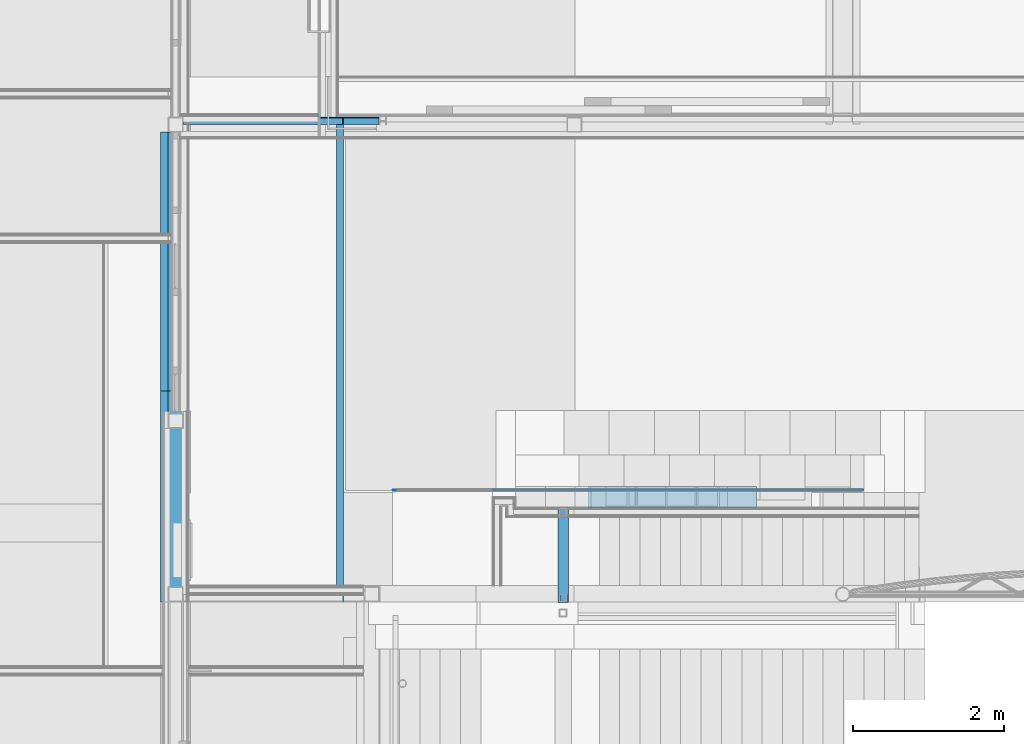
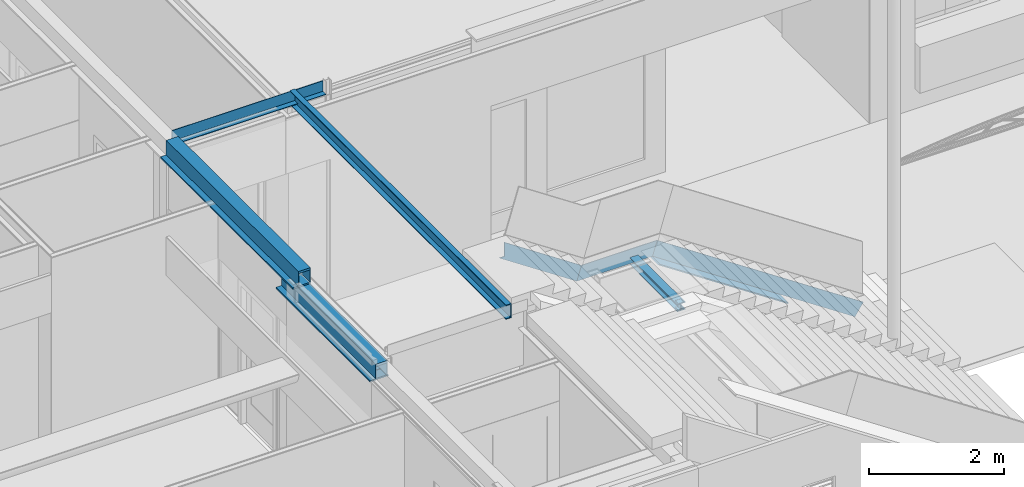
# One storey, part 9 of 165: 9 beams.
"""IFC2X3 building model written with IfcOpenShell, lengths in millimetres."""

from ifc_helpers import new_model, entity, si_unit, converted_unit, derived_unit, money_unit, direction, frame, origin_with_axes, place, context, subcontext, project, spatial, faceted_brep, material, type_object, element, save


model = new_model("IFC2X3")

# Units and contexts
model_context = context("Model", 3, precision=0.01, world=origin_with_axes(), true_north=direction((0.0, 1.0)))
body_context = subcontext(model_context, "Body", "Model", "MODEL_VIEW")
ifc_project = project(units=[si_unit("LENGTHUNIT", "METRE", prefix="MILLI"), si_unit("AREAUNIT", "SQUARE_METRE"), si_unit("VOLUMEUNIT", "CUBIC_METRE"), converted_unit("PLANEANGLEUNIT", "DEGREE", entity("IfcPlaneAngleMeasure", 0.0174532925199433), si_unit("PLANEANGLEUNIT", "RADIAN"), dimensions=[0, 0, 0, 0, 0, 0, 0]), money_unit("EUR"), converted_unit("TIMEUNIT", "Year", entity("IfcTimeMeasure", 31556926.0), si_unit("TIMEUNIT", "SECOND"), dimensions=[0, 0, 1, 0, 0, 0, 0]), si_unit("MASSUNIT", "GRAM", prefix="KILO"), si_unit("THERMODYNAMICTEMPERATUREUNIT", "DEGREE_CELSIUS"), si_unit("LUMINOUSINTENSITYUNIT", "LUMEN"), si_unit("ENERGYUNIT", "JOULE", prefix="MEGA"), derived_unit("THERMALCONDUCTANCEUNIT", [(si_unit("POWERUNIT", "WATT"), 1), (si_unit("LENGTHUNIT", "METRE"), -1), (si_unit("THERMODYNAMICTEMPERATUREUNIT", "KELVIN"), -1)]), derived_unit("SPECIFICHEATCAPACITYUNIT", [(si_unit("ENERGYUNIT", "JOULE"), 1), (si_unit("MASSUNIT", "GRAM", prefix="KILO"), -1), (si_unit("THERMODYNAMICTEMPERATUREUNIT", "KELVIN"), -1)]), derived_unit("MASSDENSITYUNIT", [(si_unit("MASSUNIT", "GRAM", prefix="KILO"), 1), (si_unit("VOLUMEUNIT", "CUBIC_METRE"), -1)])], contexts=[model_context])

# Site, building, storey
site_placement = place(None, origin_with_axes())
site = spatial("IfcSite", under=ifc_project, at=site_placement, Name="Site", CompositionType="ELEMENT")
building_placement = place(site_placement, origin_with_axes())
building = spatial("IfcBuilding", under=site, at=building_placement, Name="Naam gebouw", CompositionType="ELEMENT")
storey_placement = place(building_placement, origin_with_axes())
storey = spatial("IfcBuildingStorey", under=building, at=storey_placement, Name="Begane grond", CompositionType="ELEMENT", Elevation=0.0)

# Beams
ifc_material_1 = material(Name="Metaal - Staal C")
beam_type_1 = type_object("IfcBeamType", Name="UNP260 90 x 260", PredefinedType="BEAM")
beam_1_placement = place(storey_placement, frame((10980.04559255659, 10910.00011055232, 3730.0), z_axis=(0.0, 0.0, 1.0), x_axis=(-1.0, 0.0, 0.0)))
element("IfcBeam", 1, at=beam_1_placement, inside=storey, type_object=beam_type_1, material=ifc_material_1, Name="h METAAL_Regenwaterafvoer-x", ObjectType="BEAM", context=body_context, shape_type="Brep", body=[
    faceted_brep([(-95.00000000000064, 0.0, -129.9999999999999), (-94.99999999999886, 6430.000110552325, -129.9999999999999), (-4.999999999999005, 6430.000110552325, -129.9999999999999), (-5.000000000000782, 0.0, -129.9999999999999), (-95.00000000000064, 0.0, 129.9999999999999), (-94.99999999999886, 6430.000110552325, 129.9999999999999), (-4.999999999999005, 6430.000110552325, 129.9999999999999), (-4.999999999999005, 6430.000110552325, 116.0000000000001), (-84.99999999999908, 6430.000110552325, 116.0000000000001), (-84.99999999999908, 6430.000110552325, -116.0000000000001), (-4.999999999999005, 6430.000110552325, -116.0000000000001), (-5.000000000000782, 0.0, -116.0000000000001), (-85.00000000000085, 0.0, -116.0000000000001), (-85.00000000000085, 0.0, 116.0000000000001), (-5.000000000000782, 0.0, 116.0000000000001), (-5.000000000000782, 0.0, 129.9999999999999)], [[[0, 1, 2, 3]], [[4, 5, 1, 0]], [[2, 1, 5, 6, 7, 8, 9, 10]], [[3, 2, 10, 11]], [[4, 0, 3, 11, 12, 13, 14, 15]], [[15, 6, 5, 4]], [[14, 7, 6, 15]], [[13, 8, 7, 14]], [[12, 9, 8, 13]], [[11, 10, 9, 12]]]),
])
beam_type_2 = type_object("IfcBeamType", Name="28 THQ enkele flens 04 318 x 290", PredefinedType="BEAM")
beam_2_placement = place(storey_placement, frame((8850.0, 7279.999999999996, 3570.000002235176), z_axis=(0.0, 0.0, 1.0), x_axis=(-1.0, 0.0, 0.0)))
element("IfcBeam", 2, at=beam_2_placement, inside=storey, type_object=beam_type_2, material=ifc_material_1, Name="h METAAL_Regenwaterafvoer-x", ObjectType="BEAM", context=body_context, shape_type="Brep", body=[
    faceted_brep([(-90.00000000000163, 489.9999999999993, -290.0000000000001), (89.99999999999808, 489.9999999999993, -290.0000000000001), (89.99999999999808, 309.9999999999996, -290.0000000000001), (-90.00000000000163, 309.9999999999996, -290.0000000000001), (-90.00000000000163, 489.9999999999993, -265.0000000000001), (89.99999999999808, 489.9999999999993, -265.0000000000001), (89.99999999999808, 309.9999999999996, -265.0000000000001), (-90.00000000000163, 309.9999999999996, -265.0000000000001)], [[[0, 1, 2, 3]], [[0, 4, 5, 1]], [[1, 5, 6, 2]], [[2, 6, 7, 3]], [[3, 7, 4, 0]], [[6, 5, 4, 7]]]),
    faceted_brep([(-90.00000000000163, 2789.999999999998, -290.0000000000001), (89.99999999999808, 2789.999999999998, -290.0000000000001), (89.99999999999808, 2609.999999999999, -290.0000000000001), (-90.00000000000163, 2609.999999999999, -290.0000000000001), (-90.00000000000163, 2789.999999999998, -265.0000000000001), (89.99999999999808, 2789.999999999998, -265.0000000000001), (89.99999999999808, 2609.999999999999, -265.0000000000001), (-90.00000000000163, 2609.999999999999, -265.0000000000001)], [[[0, 1, 2, 3]], [[0, 4, 5, 1]], [[1, 5, 6, 2]], [[2, 6, 7, 3]], [[3, 7, 4, 0]], [[6, 5, 4, 7]]]),
    faceted_brep([(-100.0000000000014, 2599.999999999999, -290.0000000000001), (99.99999999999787, 2599.999999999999, -290.0000000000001), (99.99999999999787, 2799.999999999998, -290.0000000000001), (199.9999999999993, 2799.999999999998, -290.0000000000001), (199.9999999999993, 0.0, -290.0000000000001), (-118.0000000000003, 0.0, -290.0000000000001), (-118.0000000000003, 2799.999999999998, -290.0000000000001), (-100.0000000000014, 2799.999999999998, -290.0000000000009), (99.99999999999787, 299.9999999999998, -290.0000000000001), (99.99999999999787, 499.9999999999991, -290.0000000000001), (-100.0000000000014, 499.9999999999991, -290.0000000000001), (-100.0000000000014, 299.9999999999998, -290.0000000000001), (99.99999999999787, 2599.999999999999, -260.0000022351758), (-100.0000000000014, 2599.999999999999, -260.0000022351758), (-95.00000000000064, 2599.999999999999, -260.0000022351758), (-95.00000000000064, 2599.999999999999, -265.0000000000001), (94.99999999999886, 2599.999999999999, -265.0000000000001), (94.99999999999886, 2599.999999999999, -260.0000022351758), (99.99999999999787, 2799.999999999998, -260.0000022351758), (-95.00000000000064, 2799.999999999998, -260.0000022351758), (-100.0000000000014, 2799.999999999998, -260.0000022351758), (-118.0000000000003, 2799.999999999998, -265.0000000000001), (-102.9999999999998, 2799.999999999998, -265.0000000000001), (-102.9999999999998, 2799.999999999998, 0.0), (102.9999999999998, 2799.999999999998, 0.0), (102.9999999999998, 2799.999999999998, -265.0000000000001), (199.9999999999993, 2799.999999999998, -265.0000000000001), (94.99999999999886, 2799.999999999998, -260.0000022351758), (94.99999999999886, 2799.999999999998, -40.00000000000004), (-95.00000000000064, 2799.999999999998, -40.00000000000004), (199.9999999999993, 0.0, -265.0000000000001), (102.9999999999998, 0.0, -265.0000000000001), (102.9999999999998, 0.0, 0.0), (-102.9999999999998, 0.0, 0.0), (-102.9999999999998, 0.0, -265.0000000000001), (-118.0000000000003, 0.0, -265.0000000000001), (95.00000000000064, 0.0, -265.0000000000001), (-95.00000000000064, 0.0, -265.0000000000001), (-95.00000000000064, 0.0, -40.00000000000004), (95.00000000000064, 0.0, -40.00000000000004), (99.99999999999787, 499.9999999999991, -260.0000022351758), (99.99999999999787, 299.9999999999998, -260.0000022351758), (-100.0000000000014, 499.9999999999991, -260.0000022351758), (94.99999999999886, 499.9999999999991, -260.0000022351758), (95.00000000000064, 499.9999999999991, -265.0000000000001), (-95.00000000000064, 499.9999999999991, -265.0000000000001), (-95.00000000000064, 499.9999999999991, -260.0000022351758), (-100.0000000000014, 299.9999999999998, -260.0000022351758), (-95.00000000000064, 299.9999999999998, -260.0000022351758), (-95.00000000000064, 299.9999999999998, -265.0000000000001), (95.00000000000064, 299.9999999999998, -265.0000000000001), (94.99999999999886, 299.9999999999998, -260.0000022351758)], [[[0, 1, 2, 3, 4, 5, 6, 7], [8, 9, 10, 11]], [[12, 1, 0, 13, 14, 15, 16, 17]], [[18, 2, 1, 12]], [[19, 20, 7, 6, 21, 22, 23, 24, 25, 26, 3, 2, 18, 27, 28, 29]], [[30, 4, 3, 26]], [[31, 32, 33, 34, 35, 5, 4, 30], [36, 37, 38, 39]], [[5, 35, 21, 6]], [[13, 0, 7, 20]], [[40, 9, 8, 41]], [[42, 10, 9, 40, 43, 44, 45, 46]], [[47, 11, 10, 42]], [[41, 8, 11, 47, 48, 49, 50, 51]], [[13, 20, 19, 14]], [[15, 14, 19, 29, 38, 37, 49, 48, 46, 45]], [[44, 16, 15, 45]], [[27, 17, 16, 44, 43, 51, 50, 36, 39, 28]], [[12, 17, 27, 18]], [[35, 34, 22, 21]], [[34, 33, 23, 22]], [[33, 32, 24, 23]], [[32, 31, 25, 24]], [[31, 30, 26, 25]], [[39, 38, 29, 28]], [[36, 50, 49, 37]], [[41, 51, 43, 40]], [[42, 46, 48, 47]]]),
])
beam_3_placement = place(storey_placement, frame((8850.000000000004, 10710.00011055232, 3860.0), z_axis=(0.0, 0.0, 1.0), x_axis=(-1.0, 0.0, 0.0)))
element("IfcBeam", 3, at=beam_3_placement, inside=storey, type_object=beam_type_2, material=ifc_material_1, Name="h METAAL_Regenwaterafvoer-x", ObjectType="BEAM", context=body_context, shape_type="Brep", body=[
    faceted_brep([(-102.9999999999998, 0.0, 0.0), (-102.9999999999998, 3930.000110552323, 0.0), (-102.9999999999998, 3930.000110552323, -265.0000000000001), (-102.9999999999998, 0.0, -265.0000000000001), (102.9999999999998, 0.0, 0.0), (102.9999999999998, 3930.000110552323, 0.0), (102.9999999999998, 3930.000110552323, -265.0000000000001), (199.9999999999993, 3930.000110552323, -265.0000000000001), (199.9999999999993, 3930.000110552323, -290.0000000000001), (-118.0000000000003, 3930.000110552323, -290.0000000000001), (-118.0000000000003, 3930.000110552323, -265.0000000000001), (94.99999999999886, 3930.000110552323, -40.00000000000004), (-95.00000000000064, 3930.000110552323, -40.00000000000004), (-95.00000000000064, 3930.000110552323, -265.0000000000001), (94.99999999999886, 3930.000110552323, -265.0000000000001), (-118.0000000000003, 0.0, -265.0000000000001), (-118.0000000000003, 0.0, -290.0000000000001), (199.9999999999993, 0.0, -290.0000000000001), (199.9999999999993, 0.0, -265.0000000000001), (102.9999999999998, 0.0, -265.0000000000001), (-95.00000000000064, 0.0, -265.0000000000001), (-95.00000000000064, 0.0, -40.00000000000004), (95.00000000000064, 0.0, -40.00000000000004), (95.00000000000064, 0.0, -265.0000000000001)], [[[0, 1, 2, 3]], [[4, 5, 1, 0]], [[2, 1, 5, 6, 7, 8, 9, 10], [11, 12, 13, 14]], [[3, 2, 10, 15]], [[4, 0, 3, 15, 16, 17, 18, 19], [20, 21, 22, 23]], [[19, 6, 5, 4]], [[18, 7, 6, 19]], [[17, 8, 7, 18]], [[16, 9, 8, 17]], [[15, 10, 9, 16]], [[21, 12, 11, 22]], [[20, 13, 12, 21]], [[23, 14, 13, 20]], [[22, 11, 14, 23]]]),
])
ifc_material_2 = material(Name="Gipsplaat")
beam_type_3 = type_object("IfcBeamType", Name="Gipsplaat 13 x 261", PredefinedType="BEAM")
beam_4_placement = place(storey_placement, frame((17973.75002142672, 5970.000199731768, 573.9353624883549), z_axis=(0.0, 0.0, 1.0), x_axis=(1.118256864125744e-08, 1.0, 0.0)))
element("IfcBeam", 4, at=beam_4_placement, inside=storey, type_object=beam_type_3, material=ifc_material_2, Name="f7 Vormvaste grondstoffen, gebonden met gips_Regenwaterafvoer-x", ObjectType="BEAM", context=body_context, shape_type="Brep", body=[
    faceted_brep([(-12.50000000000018, 3541.596957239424, 2361.06463815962), (-12.50000000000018, 0.0, 0.0), (0.0, 0.0, 0.0), (0.0, 3541.596956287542, 2361.064637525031), (-12.50000000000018, 3620.470011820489, 2100.564638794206), (-12.50000000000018, 144.499401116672, -216.749101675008), (0.0, 144.499401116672, -216.749101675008), (0.0, 3620.470010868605, 2100.564638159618)], [[[0, 1, 2, 3]], [[4, 5, 1, 0]], [[1, 5, 6, 2]], [[3, 2, 6, 7]], [[7, 4, 0, 3]], [[7, 6, 5, 4]]]),
])
beam_5_placement = place(storey_placement, frame((14463.75002142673, 5970.000238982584, 2935.000000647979), z_axis=(0.0, 0.0, 1.0), x_axis=(1.788548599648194e-07, 0.999999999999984, 0.0)))
element("IfcBeam", 5, at=beam_5_placement, inside=storey, type_object=beam_type_3, material=ifc_material_2, Name="f7 Vormvaste grondstoffen, gebonden met gips_Regenwaterafvoer-x", ObjectType="BEAM", context=body_context, shape_type="Brep", body=[
    faceted_brep([(0.0, 1331.596970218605, 0.0), (-12.50000000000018, 1331.59696903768, 0.0), (-12.50000000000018, 31.59695514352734, 0.0), (0.0, 31.59695609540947, 0.0), (0.0, 1410.470026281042, -260.4999999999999), (-12.50000000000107, 1410.470025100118, -260.4999999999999), (-12.50000000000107, 110.4700099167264, -260.4999999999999), (0.0, 110.4700108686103, -260.4999999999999)], [[[0, 1, 2, 3]], [[0, 4, 5, 1]], [[1, 5, 6, 2]], [[3, 2, 6, 7]], [[4, 0, 3, 7]], [[5, 4, 7, 6]]]),
])
beam_6_placement = place(storey_placement, frame((12893.75004822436, 5970.000519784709, 3093.935337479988), z_axis=(0.0, 0.0, 1.0), x_axis=(-2.916255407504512e-08, 0.9999999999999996, 0.0)))
element("IfcBeam", 6, at=beam_6_placement, inside=storey, type_object=beam_type_3, material=ifc_material_2, Name="f7 Vormvaste grondstoffen, gebonden met gips_Regenwaterafvoer-x", ObjectType="BEAM", context=body_context, shape_type="Brep", body=[
    faceted_brep([(7.918046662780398e-06, 1080.000027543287, 720.0000259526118), (0.0, -238.4030027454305, -158.935337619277), (0.0, -159.52994692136, -419.4353368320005), (-4.887674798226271e-05, 1168.720032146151, 466.0646628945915), (7.918046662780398e-06, 1080.000027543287, 466.0646628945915), (-12.49999208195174, 1080.000019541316, 720.0000259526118), (-12.50000000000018, -238.4030015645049, -158.9353368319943), (-12.49999999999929, -159.5299457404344, -419.4353360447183), (-12.50004887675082, 1168.720032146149, 466.0646628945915), (-12.49999208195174, 1080.000019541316, 466.0646628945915)], [[[0, 1, 2, 3, 4]], [[5, 6, 1, 0]], [[1, 6, 7, 2]], [[3, 2, 7, 8]], [[3, 8, 9, 4]], [[0, 4, 9, 5]], [[7, 6, 5, 9, 8]]]),
])
ifc_material_3 = material(Name="Hout - Multiplex")
beam_type_4 = type_object("IfcBeamType", Name="Hout - Multiplex 280 x 20", PredefinedType="BEAM")
beam_7_placement = place(storey_placement, frame((16558.57015574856, 6009.99727674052, 1195.000016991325), z_axis=(0.0, 0.0, 1.0), x_axis=(1.118256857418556e-08, 1.0, 0.0)))
element("IfcBeam", 7, at=beam_7_placement, inside=storey, type_object=beam_type_4, material=ifc_material_3, Name="i4 In lagen verlijmd hout_Regenwaterafvoer-x", ObjectType="BEAM", context=body_context, shape_type="Brep", body=[
    faceted_brep([(0.0, 0.0, 0.0), (0.0, 2201.999974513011, 1467.999983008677), (-280.0000982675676, 2201.999974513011, 1467.999983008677), (-280.0000982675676, 0.0, 0.0), (0.0, 11.09400392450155, -16.64100588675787), (0.0, 2238.055487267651, 1467.999983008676), (-280.0000982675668, 2238.055487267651, 1467.999983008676), (-280.0000982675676, 11.09400392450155, -16.64100588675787)], [[[0, 1, 2, 3]], [[4, 5, 1, 0]], [[2, 1, 5, 6]], [[3, 2, 6, 7]], [[4, 0, 3, 7]], [[7, 6, 5, 4]]]),
])
beam_type_5 = type_object("IfcBeamType", Name="L200X100X10 100 x 200", PredefinedType="BEAM")
beam_8_placement = place(storey_placement, frame((11550.0, 10810.00011055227, 3744.999999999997), z_axis=(0.0, 0.0, 1.0), x_axis=(0.0, 1.0, 0.0)))
element("IfcBeam", 8, at=beam_8_placement, inside=storey, type_object=beam_type_5, material=ifc_material_1, Name="h METAAL_Regenwaterafvoer-x", ObjectType="BEAM", context=body_context, shape_type="Brep", body=[
    faceted_brep([(89.99999999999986, 2597.0, 100.0000000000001), (89.99999999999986, 484.9544074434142, 100.0000000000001), (100.0000000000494, 484.9544074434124, 100.0000000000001), (99.99999999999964, 2597.0, 100.0000000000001), (89.99999999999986, 2597.0, -89.99999999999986), (89.99999999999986, 484.9544074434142, -89.99999999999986), (0.0, 484.9544074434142, -100.0000000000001), (100.0000000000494, 484.9544074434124, -100.0000000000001), (0.0, 484.9544074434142, -89.99999999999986), (99.99999999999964, 2597.0, -100.0000000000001), (0.0, 2597.0, -100.0000000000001), (0.0, 2597.0, -89.99999999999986)], [[[0, 1, 2, 3]], [[4, 5, 1, 0]], [[6, 7, 2, 1, 5, 8]], [[3, 2, 7, 9]], [[4, 0, 3, 9, 10, 11]], [[11, 8, 5, 4]], [[9, 7, 6, 10]], [[10, 6, 8, 11]]]),
    faceted_brep([(99.99999999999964, 0.0, -100.0000000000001), (100.0000000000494, 474.9544074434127, -100.0000000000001), (100.0000000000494, 474.9544074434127, 100.0000000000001), (99.99999999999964, 0.0, 100.0000000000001), (0.0, 0.0, -100.0000000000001), (0.0, 474.9544074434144, -100.0000000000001), (89.99999999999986, 474.9544074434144, -89.99999999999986), (89.99999999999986, 474.9544074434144, 100.0000000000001), (0.0, 474.9544074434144, -89.99999999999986), (89.99999999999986, 0.0, 100.0000000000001), (89.99999999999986, 0.0, -89.99999999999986), (0.0, 0.0, -89.99999999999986)], [[[0, 1, 2, 3]], [[4, 5, 1, 0]], [[6, 7, 2, 1, 5, 8]], [[3, 2, 7, 9]], [[4, 0, 3, 9, 10, 11]], [[11, 8, 5, 4]], [[9, 7, 6, 10]], [[10, 6, 8, 11]]]),
])
beam_type_6 = type_object("IfcBeamType", Name="HEA140 140 x 133", PredefinedType="BEAM")
beam_9_placement = place(storey_placement, frame((13990.0, 4468.999999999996, 2783.499999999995), z_axis=(0.0, 0.0, 1.0), x_axis=(1.0, 0.0, 0.0)))
element("IfcBeam", 9, at=beam_9_placement, inside=storey, type_object=beam_type_6, material=ifc_material_1, Name="h METAAL_Regenwaterafvoer-x", ObjectType="BEAM", context=body_context, shape_type="Brep", body=[
    faceted_brep([(-2.750000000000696, 17.00000000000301, 57.99999999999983), (-44.00000000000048, 17.00000000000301, 57.99999999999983), (-44.00000000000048, 105.0000000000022, 57.99999999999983), (-2.750000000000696, 105.0000000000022, 57.99999999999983), (44.00000000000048, 17.00000000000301, 57.99999999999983), (44.00000000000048, 17.00000000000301, 66.50000000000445), (-44.00000000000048, 17.00000000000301, 66.50000000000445), (-2.750000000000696, 17.00000000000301, -57.99999999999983), (-44.00000000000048, 17.00000000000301, -57.99999999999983), (-44.00000000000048, 17.00000000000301, -66.5), (44.00000000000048, 17.00000000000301, -66.5), (44.00000000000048, 17.00000000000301, -57.99999999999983), (2.750000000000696, 17.00000000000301, -57.99999999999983), (2.750000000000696, 17.00000000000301, 57.99999999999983), (-44.00000000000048, 105.0000000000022, 66.50000000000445), (44.00000000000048, 105.0000000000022, 66.50000000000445), (44.00000000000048, 105.0000000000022, 57.99999999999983), (2.750000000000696, 105.0000000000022, 57.99999999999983), (2.750000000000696, 105.0000000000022, -57.99999999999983), (44.00000000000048, 105.0000000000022, -57.99999999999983), (44.00000000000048, 105.0000000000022, -66.5), (-44.00000000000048, 105.0000000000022, -66.5), (-44.00000000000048, 105.0000000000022, -57.99999999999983), (-2.750000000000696, 105.0000000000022, -57.99999999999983)], [[[0, 1, 2, 3]], [[4, 5, 6, 1, 0, 7, 8, 9, 10, 11, 12, 13]], [[1, 6, 14, 2]], [[2, 14, 15, 16, 17, 18, 19, 20, 21, 22, 23, 3]], [[23, 7, 0, 3]], [[16, 15, 5, 4]], [[14, 6, 5, 15]], [[22, 8, 7, 23]], [[9, 8, 22, 21]], [[10, 9, 21, 20]], [[20, 19, 11, 10]], [[11, 19, 18, 12]], [[12, 18, 17, 13]], [[16, 4, 13, 17]]]),
    faceted_brep([(-2.750000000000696, 1411.000162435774, -57.99999999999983), (-2.750000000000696, 111.0000000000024, -57.99999999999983), (-2.750000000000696, 111.0000000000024, 57.99999999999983), (-2.750000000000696, 1411.000162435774, 57.99999999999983), (-50.00000000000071, 11.00000000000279, -57.99999999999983), (-50.00000000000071, 111.0000000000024, -57.99999999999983), (-70.00000000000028, 1411.000162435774, -57.99999999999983), (-70.00000000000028, 0.0, -57.99999999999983), (-2.750000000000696, 0.0, -57.99999999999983), (-2.750000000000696, 11.00000000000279, -57.99999999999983), (50.00000000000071, 111.0000000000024, 57.99999999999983), (50.00000000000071, 111.0000000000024, 66.50000000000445), (-50.00000000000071, 111.0000000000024, 66.50000000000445), (-50.00000000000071, 111.0000000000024, 57.99999999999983), (-50.00000000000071, 111.0000000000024, -66.5), (50.00000000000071, 111.0000000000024, -66.5), (50.00000000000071, 111.0000000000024, -57.99999999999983), (2.750000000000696, 111.0000000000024, -57.99999999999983), (2.750000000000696, 111.0000000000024, 57.99999999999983), (-50.00000000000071, 11.00000000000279, 57.99999999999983), (-2.750000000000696, 11.00000000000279, 57.99999999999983), (-2.750000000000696, 0.0, 57.99999999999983), (-70.00000000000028, 0.0, 57.99999999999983), (-70.00000000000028, 1411.000162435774, 57.99999999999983), (-70.00000000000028, 1411.000162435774, 66.5), (70.00000000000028, 1411.000162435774, 66.5), (70.00000000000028, 1411.000162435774, 57.99999999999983), (2.750000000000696, 1411.000162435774, 57.99999999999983), (2.750000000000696, 1411.000162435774, -57.99999999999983), (70.00000000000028, 1411.000162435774, -57.99999999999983), (70.00000000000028, 1411.000162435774, -66.5), (-70.00000000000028, 1411.000162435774, -66.5), (-50.00000000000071, 11.00000000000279, -66.5), (-70.00000000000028, 0.0, -66.5), (70.00000000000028, 0.0, 57.99999999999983), (70.00000000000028, 0.0, 66.5), (-70.00000000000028, 0.0, 66.5), (70.00000000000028, 0.0, -66.5), (70.00000000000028, 0.0, -57.99999999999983), (2.750000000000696, 0.0, -57.99999999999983), (2.750000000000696, 0.0, 57.99999999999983), (-50.00000000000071, 11.00000000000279, 66.50000000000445), (50.00000000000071, 11.00000000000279, 66.50000000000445), (50.00000000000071, 11.00000000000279, 57.99999999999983), (2.750000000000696, 11.00000000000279, 57.99999999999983), (2.750000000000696, 11.00000000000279, -57.99999999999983), (50.00000000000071, 11.00000000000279, -57.99999999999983), (50.00000000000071, 11.00000000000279, -66.5)], [[[0, 1, 2, 3]], [[4, 5, 1, 0, 6, 7, 8, 9]], [[10, 11, 12, 13, 2, 1, 5, 14, 15, 16, 17, 18]], [[13, 19, 20, 21, 22, 23, 3, 2]], [[3, 23, 24, 25, 26, 27, 28, 29, 30, 31, 6, 0]], [[14, 5, 4, 32]], [[33, 7, 6, 31]], [[34, 35, 36, 22, 21, 8, 7, 33, 37, 38, 39, 40]], [[21, 20, 9, 8]], [[19, 41, 42, 43, 44, 45, 46, 47, 32, 4, 9, 20]], [[43, 42, 11, 10]], [[36, 35, 25, 24], [42, 41, 12, 11]], [[13, 12, 41, 19]], [[37, 33, 31, 30], [14, 32, 47, 15]], [[47, 46, 16, 15]], [[16, 46, 45, 39, 38, 29, 28, 17]], [[27, 18, 17, 28]], [[40, 44, 43, 10, 18, 27, 26, 34]], [[22, 36, 24, 23]], [[35, 34, 26, 25]], [[38, 37, 30, 29]], [[39, 45, 44, 40]]]),
])

save(model, "model.ifc")
